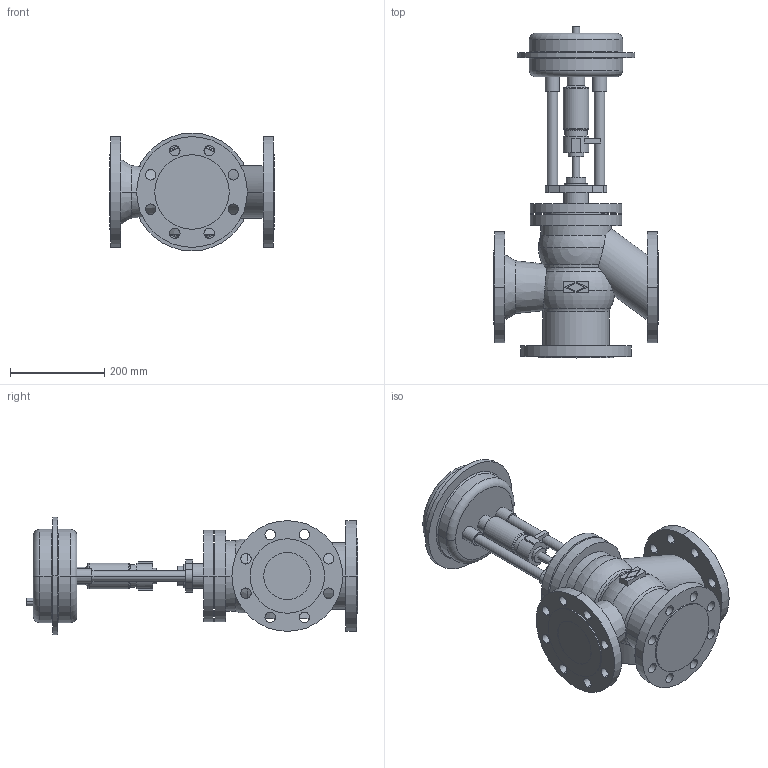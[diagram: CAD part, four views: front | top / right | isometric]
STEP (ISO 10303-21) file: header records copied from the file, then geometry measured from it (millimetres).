
FILE_DESCRIPTION(('OneSpaceDesigner STEP Export'),'2;1');
FILE_NAME('c000000658.stp','2006-09-13T12:59:53',(''),(''),'OneSpace Designer STEP processor for AP214 (Solid Model)','OneSpace Designer 13.20A 18-Aug-2005 (C) CoCreate Software GmbH','');
FILE_SCHEMA(('AUTOMOTIVE_DESIGN { 1 0 10303 214 1 1 1 1 }'));
Length unit declared in the file: millimetre
Products named in the file (2): 1; 2
Bounding box: 350 x 704.5 x 250 mm (x, y, z)
Volume: 14561384 mm3; surface area: 811330.4 mm2
Topology: 2 solids, 2 shells, 225 faces, 559 edges, 362 vertices
Faces by surface type: cylinder 116, plane 69, torus 28, cone 8, sphere 4
Entity records: 6112 total; most frequent: CARTESIAN_POINT 1303, ORIENTED_EDGE 1110, DIRECTION 836, EDGE_CURVE 555, VERTEX_POINT 362, AXIS2_PLACEMENT_3D 313, EDGE_LOOP 301, FACE_OUTER_BOUND 225
